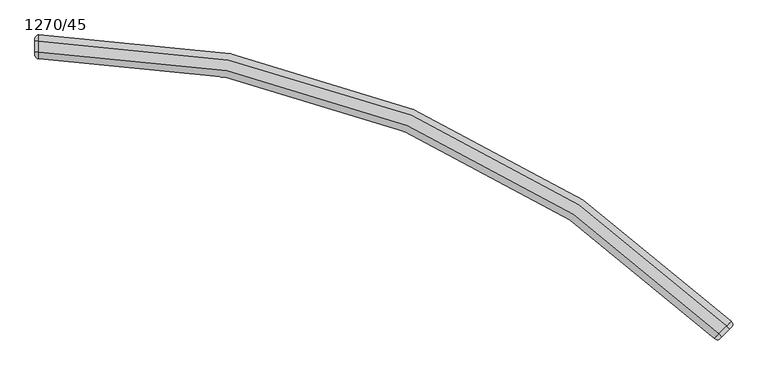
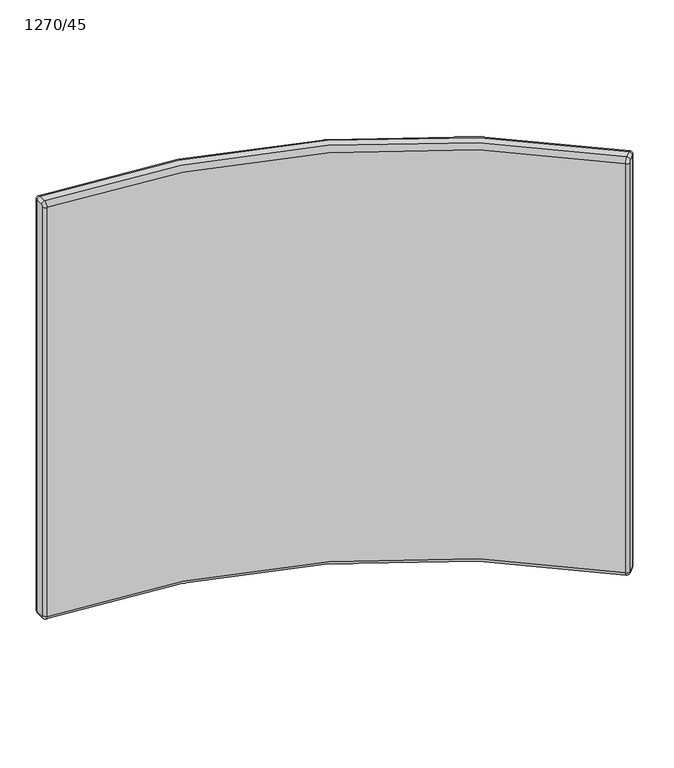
"""IFC4 building model written with IfcOpenShell, lengths in millimetres: furniture geometry, Laguna-Panel-Curve_Inside-ERG : 1270/45."""

from ifc_helpers import new_model, si_unit, point, frame, origin, place, context, project, spatial, polyline, circle_curve, ellipse_curve, trimmed, source, transform, mapped, element, save
from ifc_brep_helpers import plane_surface, cylinder_surface, revolved_surface, advanced_brep


def furniture_1270_45_ef554d54(model_context):
    return source(origin(), model_context, "Body", "AdvancedBrep", [
        advanced_brep(
        [(-3724.0062066, 1033.1440543, 1209.04), (-3724.0062066, 1042.1243104, 1209.04), (-3731.1904115, 1034.9401055, 1219.2), (-3726.7002834, 1030.4499774, 1212.85), (-3743.7815089, 1022.3490081, 1219.2), (-3739.2913808, 1017.85888, 1212.85), (-3750.9657138, 1015.1648032, 1209.04), (-3741.9854577, 1015.1648032, 1209.04), (-3750.9657138, 1015.1648032, 213.36), (-3741.9854577, 1015.1648032, 213.36), (-3743.7815089, 1022.3490081, 203.2), (-3739.2913808, 1017.85888, 209.55), (-3731.1904115, 1034.9401055, 203.2), (-3726.7002834, 1030.4499774, 209.55), (-3724.0062066, 1042.1243104, 213.36), (-3724.0062066, 1033.1440543, 213.36), (-4826.5553779, 1498.8151303, 1209.04), (-4826.5553779, 1488.6551303, 1219.2), (-4826.5553779, 1498.8151303, 213.36), (-4826.5553779, 1488.6551303, 203.2), (-4826.5553779, 1470.8486296, 203.2), (-4826.5553779, 1460.6886296, 213.36), (-4826.5553779, 1460.6886296, 1209.04), (-4826.5553779, 1470.8486296, 1219.2), (-4832.9053779, 1467.0386296, 1209.04), (-4832.9053779, 1470.8486296, 1212.85), (-4832.9053779, 1488.6551303, 1212.85), (-4832.9053779, 1492.4651303, 1209.04), (-4832.9053779, 1492.4651303, 213.36), (-4832.9053779, 1488.6551303, 209.55), (-4832.9053779, 1470.8486296, 209.55), (-4832.9053779, 1467.0386296, 213.36)],
        [
            (0, 1, circle_curve(frame((-3728.4963346, 1037.6341823, 1209.04), z_axis=(0.0, 0.0, 1.0000000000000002), x_axis=(-0.7071067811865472, -0.7071067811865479, 0.0)), 6.35)),
            (1, 2, circle_curve(frame((-3731.1904115, 1034.9401055, 1209.04), z_axis=(0.7071067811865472, -0.7071067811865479, 0.0), x_axis=(0.7071067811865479, 0.7071067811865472, 0.0)), 10.16)),
            (2, 3, circle_curve(frame((-3731.1904115, 1034.9401055, 1212.85), z_axis=(0.7071067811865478, 0.7071067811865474, 0.0), x_axis=(0.0, 0.0, -1.0000000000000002)), 6.35)),
            (3, 0, circle_curve(frame((-3726.7002834, 1030.4499774, 1209.04), z_axis=(-0.7071067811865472, 0.7071067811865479, 0.0), x_axis=(0.7071067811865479, 0.7071067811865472, 0.0)), 3.81)),
            (2, 4),
            (4, 5, circle_curve(frame((-3743.7815089, 1022.3490081, 1212.85), z_axis=(0.7071067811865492, 0.7071067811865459, 0.0), x_axis=(0.0, 0.0, -1.0)), 6.35)),
            (5, 3),
            (4, 6, circle_curve(frame((-3743.7815089, 1022.3490081, 1209.04), z_axis=(0.7071067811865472, -0.7071067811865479, 0.0), x_axis=(0.0, 0.0, 1.0)), 10.16)),
            (6, 7, circle_curve(frame((-3746.4755857, 1019.6549312, 1209.04), z_axis=(0.0, 0.0, 1.0), x_axis=(0.7071067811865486, 0.7071067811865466, 0.0)), 6.35)),
            (7, 5, circle_curve(frame((-3739.2913808, 1017.85888, 1209.04), z_axis=(-0.7071067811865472, 0.7071067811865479, 0.0), x_axis=(0.0, 0.0, 1.0)), 3.81)),
            (6, 8),
            (8, 9, circle_curve(frame((-3746.4755857, 1019.6549312, 213.36), z_axis=(0.0, 0.0, 1.0), x_axis=(0.7071067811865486, 0.7071067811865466, 0.0)), 6.35)),
            (9, 7),
            (8, 10, circle_curve(frame((-3743.7815089, 1022.3490081, 213.36), z_axis=(0.7071067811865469, -0.7071067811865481, 0.0), x_axis=(-0.7071067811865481, -0.7071067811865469, 0.0)), 10.16)),
            (10, 11, circle_curve(frame((-3743.7815089, 1022.3490081, 209.55), z_axis=(-0.7071067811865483, -0.7071067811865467, 0.0), x_axis=(0.0, 0.0, 1.0)), 6.35)),
            (11, 9, circle_curve(frame((-3739.2913808, 1017.85888, 213.36), z_axis=(-0.7071067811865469, 0.7071067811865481, 0.0), x_axis=(-0.7071067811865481, -0.7071067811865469, 0.0)), 3.81)),
            (10, 12),
            (12, 13, circle_curve(frame((-3731.1904115, 1034.9401055, 209.55), z_axis=(-0.7071067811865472, -0.707106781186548, 0.0), x_axis=(0.0, 0.0, 1.0)), 6.35)),
            (13, 11),
            (12, 14, circle_curve(frame((-3731.1904115, 1034.9401055, 213.36), z_axis=(0.7071067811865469, -0.7071067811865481, 0.0), x_axis=(0.0, 0.0, -1.0)), 10.16)),
            (14, 15, circle_curve(frame((-3728.4963346, 1037.6341823, 213.36), z_axis=(0.0, 0.0, -1.0), x_axis=(-0.7071067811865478, -0.7071067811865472, 0.0)), 6.35)),
            (15, 13, circle_curve(frame((-3726.7002834, 1030.4499774, 213.36), z_axis=(-0.7071067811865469, 0.7071067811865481, 0.0), x_axis=(0.0, 0.0, -1.0)), 3.81)),
            (0, 15),
            (14, 1),
            (1, 16, circle_curve(frame((-4826.5553779, -60.4248609, 1209.04), z_axis=(0.0, 0.0, 1.0), x_axis=(0.0, 1.0, 0.0)), 1559.2399912)),
            (16, 17, circle_curve(frame((-4826.5553779, 1488.6551303, 1209.04), z_axis=(1.0, 0.0, 0.0), x_axis=(0.0, 1.0, 0.0)), 10.16)),
            (17, 2, circle_curve(frame((-4826.5553779, -60.4248609, 1219.2), z_axis=(0.0, 0.0, -1.0), x_axis=(0.0, 1.0, 0.0)), 1549.0799912)),
            (14, 18, circle_curve(frame((-4826.5553779, -60.4248609, 213.36), z_axis=(0.0, 0.0, 1.0), x_axis=(0.0, 1.0, 0.0)), 1559.2399912)),
            (18, 16),
            (12, 19, circle_curve(frame((-4826.5553779, -60.4248609, 203.2), z_axis=(0.0, 0.0, 1.0), x_axis=(0.0, 1.0, 0.0)), 1549.0799912)),
            (19, 18, circle_curve(frame((-4826.5553779, 1488.6551303, 213.36), z_axis=(1.0, 0.0, 0.0), x_axis=(0.0, 1.0, 0.0)), 10.16)),
            (10, 20, circle_curve(frame((-4826.5553779, -60.4248609, 203.2), z_axis=(0.0, 0.0, 1.0), x_axis=(0.0, 1.0, 0.0)), 1531.2734905)),
            (20, 19),
            (8, 21, circle_curve(frame((-4826.5553779, -60.4248609, 213.36), z_axis=(0.0, 0.0, 1.0), x_axis=(0.0, 1.0, 0.0)), 1521.1134905)),
            (21, 20, circle_curve(frame((-4826.5553779, 1470.8486296, 213.36), z_axis=(1.0, 0.0, 0.0), x_axis=(0.0, 1.0, 0.0)), 10.16)),
            (6, 22, circle_curve(frame((-4826.5553779, -60.4248609, 1209.04), z_axis=(0.0, 0.0, 1.0), x_axis=(0.0, 1.0, 0.0)), 1521.1134905)),
            (22, 21),
            (4, 23, circle_curve(frame((-4826.5553779, -60.4248609, 1219.2), z_axis=(0.0, 0.0, 1.0), x_axis=(0.0, 1.0, 0.0)), 1531.2734905)),
            (23, 22, circle_curve(frame((-4826.5553779, 1470.8486296, 1209.04), z_axis=(1.0, 0.0, 0.0), x_axis=(0.0, 1.0, 0.0)), 10.16)),
            (17, 23),
            (24, 22, circle_curve(frame((-4826.5553779, 1467.0386296, 1209.04), z_axis=(0.0, 0.0, 1.0), x_axis=(0.0, 1.0, 0.0)), 6.35)),
            (23, 25, circle_curve(frame((-4826.5553779, 1470.8486296, 1212.85), z_axis=(0.0, -1.0, 0.0), x_axis=(0.0, 0.0, -1.0)), 6.35)),
            (25, 24, circle_curve(frame((-4832.9053779, 1470.8486296, 1209.04), z_axis=(1.0, 0.0, 0.0), x_axis=(0.0, -1.0, 0.0)), 3.81)),
            (17, 26, circle_curve(frame((-4826.5553779, 1488.6551303, 1212.85), z_axis=(0.0, -1.0, 0.0), x_axis=(0.0, 0.0, -1.0)), 6.35)),
            (26, 25),
            (16, 27, circle_curve(frame((-4826.5553779, 1492.4651303, 1209.04), z_axis=(0.0, 0.0, 1.0), x_axis=(0.0, -1.0, 0.0)), 6.35)),
            (27, 26, circle_curve(frame((-4832.9053779, 1488.6551303, 1209.04), z_axis=(1.0, 0.0, 0.0), x_axis=(0.0, 0.0, 1.0)), 3.81)),
            (18, 28, circle_curve(frame((-4826.5553779, 1492.4651303, 213.36), z_axis=(0.0, 0.0, 1.0), x_axis=(0.0, -1.0, 0.0)), 6.35)),
            (28, 27),
            (19, 29, circle_curve(frame((-4826.5553779, 1488.6551303, 209.55), z_axis=(0.0, 1.0, 0.0), x_axis=(0.0, 0.0, 1.0)), 6.35)),
            (29, 28, circle_curve(frame((-4832.9053779, 1488.6551303, 213.36), z_axis=(1.0, 0.0, 0.0), x_axis=(0.0, 1.0, 0.0)), 3.81)),
            (20, 30, circle_curve(frame((-4826.5553779, 1470.8486296, 209.55), z_axis=(0.0, 1.0, 0.0), x_axis=(0.0, 0.0, 1.0)), 6.35)),
            (30, 29),
            (21, 31, circle_curve(frame((-4826.5553779, 1467.0386296, 213.36), z_axis=(0.0, 0.0, -1.0), x_axis=(0.0, 1.0, 0.0)), 6.35)),
            (31, 30, circle_curve(frame((-4832.9053779, 1470.8486296, 213.36), z_axis=(1.0, 0.0, 0.0), x_axis=(0.0, 0.0, -1.0)), 3.81)),
            (24, 31),
        ],
        [
            revolved_surface(trimmed(ellipse_curve(frame((-3728.4963346, 1037.6341823, 1209.04), z_axis=(0.0, 0.0, -1.0000000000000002), x_axis=(-0.7071067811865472, -0.7071067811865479, 0.0)), 6.35, 6.35), [point((-3724.0062066, 1042.1243104, 1209.04))], [point((-3724.0062066, 1033.1440543, 1209.04))], True, "CARTESIAN"), (-3731.1904115, 1034.9401055, 1209.04), (0.7071067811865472, -0.7071067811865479, 0.0)),
            cylinder_surface(frame((-3731.1904115, 1034.9401055, 1212.85), z_axis=(0.7071067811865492, 0.7071067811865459, 0.0), x_axis=(0.0, 0.0, -1.0)), 6.35),
            revolved_surface(trimmed(ellipse_curve(frame((-3743.7815089, 1022.3490081, 1212.85), z_axis=(0.7071067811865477, 0.7071067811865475, 0.0), x_axis=(0.0, 0.0, -1.0)), 6.35, 6.35), [point((-3743.7815089, 1022.3490081, 1219.2))], [point((-3739.2913808, 1017.85888, 1212.85))], True, "CARTESIAN"), (-3743.7815089, 1022.3490081, 1209.04), (0.7071067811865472, -0.7071067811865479, 0.0)),
            cylinder_surface(frame((-3746.4755857, 1019.6549312, 1209.04), z_axis=(0.0, 0.0, 1.0), x_axis=(0.7071067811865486, 0.7071067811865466, 0.0)), 6.35),
            revolved_surface(trimmed(ellipse_curve(frame((-3746.4755857, 1019.6549312, 213.36), z_axis=(0.0, 0.0, 1.0), x_axis=(0.7071067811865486, 0.7071067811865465, 0.0)), 6.35, 6.35), [point((-3750.9657138, 1015.1648032, 213.36))], [point((-3741.9854577, 1015.1648032, 213.36))], True, "CARTESIAN"), (-3743.7815089, 1022.3490081, 213.36), (0.7071067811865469, -0.7071067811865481, 0.0)),
            cylinder_surface(frame((-3743.7815089, 1022.3490081, 209.55), z_axis=(-0.7071067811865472, -0.707106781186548, 0.0), x_axis=(0.0, 0.0, 1.0)), 6.35),
            revolved_surface(trimmed(ellipse_curve(frame((-3731.1904115, 1034.9401055, 209.55), z_axis=(-0.7071067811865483, -0.7071067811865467, 0.0), x_axis=(0.0, 0.0, 1.0)), 6.35, 6.35), [point((-3731.1904115, 1034.9401055, 203.2))], [point((-3726.7002834, 1030.4499774, 209.55))], True, "CARTESIAN"), (-3731.1904115, 1034.9401055, 213.36), (0.7071067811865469, -0.7071067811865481, 0.0)),
            cylinder_surface(frame((-3728.4963346, 1037.6341823, 213.36), z_axis=(0.0, 0.0, -1.0), x_axis=(-0.7071067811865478, -0.7071067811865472, 0.0)), 6.35),
            plane_surface(frame((-3741.9854577, 1015.1648032, 213.36), z_axis=(0.7071067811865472, -0.7071067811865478, 0.0), x_axis=(0.0, 0.0, -1.0))),
            revolved_surface(trimmed(ellipse_curve(frame((-4826.5553779, 1488.6551303, 1209.04), z_axis=(-1.0, 0.0, 0.0), x_axis=(0.0, 1.0, 0.0)), 10.16, 10.16), [point((-4826.5553779, 1488.6551303, 1219.2))], [point((-4826.5553779, 1498.8151303, 1209.04))], True, "CARTESIAN"), (-4826.5553779, -60.4248609, 0.0), (0.0, 0.0, -1.0)),
            cylinder_surface(frame((-4826.5553779, -60.4248609, 0.0), z_axis=(0.0, 0.0, -1.0), x_axis=(0.0, 1.0, 0.0)), 1559.2399912),
            revolved_surface(trimmed(ellipse_curve(frame((-4826.5553779, 1488.6551303, 213.36), z_axis=(-1.0, 0.0, 0.0), x_axis=(0.0, 1.0, 0.0)), 10.16, 10.16), [point((-4826.5553779, 1498.8151303, 213.36))], [point((-4826.5553779, 1488.6551303, 203.2))], True, "CARTESIAN"), (-4826.5553779, -60.4248609, 0.0), (0.0, 0.0, -1.0)),
            plane_surface(frame((-4826.5553779, -60.4248609, 203.2), z_axis=(0.0, 0.0, -1.0), x_axis=(0.0, 1.0, 0.0))),
            revolved_surface(trimmed(ellipse_curve(frame((-4826.5553779, 1470.8486296, 213.36), z_axis=(-1.0, 0.0, 0.0), x_axis=(0.0, 1.0, 0.0)), 10.16, 10.16), [point((-4826.5553779, 1470.8486296, 203.2))], [point((-4826.5553779, 1460.6886296, 213.36))], True, "CARTESIAN"), (-4826.5553779, -60.4248609, 0.0), (0.0, 0.0, -1.0)),
            revolved_surface(polyline([(-4826.5553779, 1460.6886295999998, 213.36), (-4826.5553779, 1460.6886295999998, 1209.04)]), (-4826.5553779, -60.4248609, 0.0), (0.0, 0.0, -1.0)),
            revolved_surface(trimmed(ellipse_curve(frame((-4826.5553779, 1470.8486296, 1209.04), z_axis=(-1.0, 0.0, 0.0), x_axis=(0.0, 1.0, 0.0)), 10.16, 10.16), [point((-4826.5553779, 1460.6886296, 1209.04))], [point((-4826.5553779, 1470.8486296, 1219.2))], True, "CARTESIAN"), (-4826.5553779, -60.4248609, 0.0), (0.0, 0.0, -1.0)),
            plane_surface(frame((-4826.5553779, -60.4248609, 1219.2), z_axis=(0.0, 0.0, 1.0), x_axis=(0.0, 1.0, 0.0))),
            revolved_surface(trimmed(ellipse_curve(frame((-4826.5553779, 1467.0386296, 1209.04), z_axis=(0.0, 0.0, -1.0), x_axis=(0.0, 1.0, 0.0)), 6.35, 6.35), [point((-4826.5553779, 1460.6886296, 1209.04))], [point((-4832.9053779, 1467.0386296, 1209.04))], True, "CARTESIAN"), (-4826.5553779, 1470.8486296, 1209.04), (-1.0, 0.0, 0.0)),
            cylinder_surface(frame((-4826.5553779, 1470.8486296, 1212.85), z_axis=(0.0, -1.0, 0.0), x_axis=(0.0, 0.0, -1.0)), 6.35),
            revolved_surface(trimmed(ellipse_curve(frame((-4826.5553779, 1488.6551303, 1212.85), z_axis=(0.0, -1.0, 0.0), x_axis=(0.0, 0.0, -1.0)), 6.35, 6.35), [point((-4826.5553779, 1488.6551303, 1219.2))], [point((-4832.9053779, 1488.6551303, 1212.85))], True, "CARTESIAN"), (-4826.5553779, 1488.6551303, 1209.04), (-1.0, 0.0, 0.0)),
            cylinder_surface(frame((-4826.5553779, 1492.4651303, 1209.04), z_axis=(0.0, 0.0, 1.0), x_axis=(0.0, -1.0, 0.0)), 6.35),
            revolved_surface(trimmed(ellipse_curve(frame((-4826.5553779, 1492.4651303, 213.36), z_axis=(0.0, 0.0, 1.0), x_axis=(0.0, -1.0, 0.0)), 6.35, 6.35), [point((-4826.5553779, 1498.8151303, 213.36))], [point((-4832.9053779, 1492.4651303, 213.36))], True, "CARTESIAN"), (-4826.5553779, 1488.6551303, 213.36), (-1.0, 0.0, 0.0)),
            cylinder_surface(frame((-4826.5553779, 1488.6551303, 209.55), z_axis=(0.0, 1.0, 0.0), x_axis=(0.0, 0.0, 1.0)), 6.35),
            revolved_surface(trimmed(ellipse_curve(frame((-4826.5553779, 1470.8486296, 209.55), z_axis=(0.0, 1.0, 0.0), x_axis=(0.0, 0.0, 1.0)), 6.35, 6.35), [point((-4826.5553779, 1470.8486296, 203.2))], [point((-4832.9053779, 1470.8486296, 209.55))], True, "CARTESIAN"), (-4826.5553779, 1470.8486296, 213.36), (-1.0, 0.0, 0.0)),
            cylinder_surface(frame((-4826.5553779, 1467.0386296, 213.36), z_axis=(0.0, 0.0, -1.0), x_axis=(0.0, 1.0, 0.0)), 6.35),
            plane_surface(frame((-4832.9053779, 1492.4651303, 213.36), z_axis=(-1.0, 0.0, 0.0), x_axis=(0.0, 0.0, -1.0))),
        ],
        [
            (0, [[1, 2, 3, 4]]),
            (1, [[-3, 5, 6, 7]]),
            (2, [[-6, 8, 9, 10]]),
            (3, [[-9, 11, 12, 13]]),
            (4, [[-12, 14, 15, 16]]),
            (5, [[-15, 17, 18, 19]]),
            (6, [[-18, 20, 21, 22]]),
            (7, [[-1, 23, -21, 24]]),
            (8, [[-4, -7, -10, -13, -16, -19, -22, -23]]),
            (9, [[25, 26, 27, -2]]),
            (10, [[-25, -24, 28, 29]]),
            (11, [[-28, -20, 30, 31]]),
            (12, [[-30, -17, 32, 33]]),
            (13, [[-32, -14, 34, 35]]),
            (14, [[-34, -11, 36, 37]]),
            (15, [[-36, -8, 38, 39]]),
            (16, [[-27, 40, -38, -5]]),
            (17, [[41, -39, 42, 43]]),
            (18, [[-42, -40, 44, 45]]),
            (19, [[-44, -26, 46, 47]]),
            (20, [[-46, -29, 48, 49]]),
            (21, [[-48, -31, 50, 51]]),
            (22, [[-50, -33, 52, 53]]),
            (23, [[-52, -35, 54, 55]]),
            (24, [[-41, 56, -54, -37]]),
            (25, [[-43, -45, -47, -49, -51, -53, -55, -56]]),
        ],
    ),
    ])


if __name__ == "__main__":
    model = new_model("IFC4")
    model_context = context("Model", 3, world=origin())
    ifc_project = project(units=[si_unit("LENGTHUNIT", "METRE", prefix="MILLI")], contexts=[model_context])
    site = spatial("IfcSite", under=ifc_project)
    building = spatial("IfcBuilding", under=site)
    placement = place(None, origin())
    furniture_1270_45_shape = furniture_1270_45_ef554d54(model_context)
    element("IfcFurniture", 1, ObjectType="Laguna-Panel-Curve_Inside-ERG : 1270/45", at=placement, inside=building, context=model_context, shape_type="MappedRepresentation", body=[
        mapped(furniture_1270_45_shape, transform((0.0, 0.0, 0.0), x_axis=(1.0, 0.0, 0.0), y_axis=(0.0, 1.0, 0.0), z_axis=(0.0, 0.0, 1.0))),
    ])
    save(model, "model.ifc")
